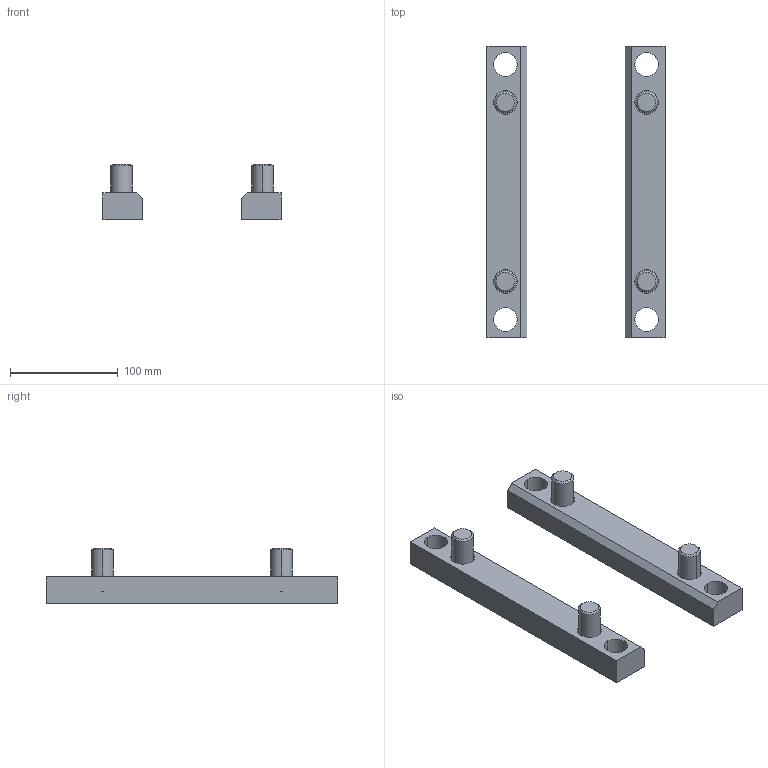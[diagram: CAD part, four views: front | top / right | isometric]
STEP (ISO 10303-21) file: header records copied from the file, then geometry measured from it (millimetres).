
FILE_DESCRIPTION (( 'STEP AP203' ), '1' );
FILE_NAME ('MJ5-BL.STEP', '2024-01-16T10:25:26', ( '' ), ( '' ), 'SwSTEP 2.0', 'SolidWorks 2022', '' );
FILE_SCHEMA (( 'CONFIG_CONTROL_DESIGN' ));
Length unit declared in the file: millimetre
Products named in the file (1): MJ5-BL
Bounding box: 165 x 270 x 51.6 mm (x, y, z)
Volume: 467697.3 mm3; surface area: 99119 mm2
Topology: 6 solids, 6 shells, 126 faces, 310 edges, 200 vertices
Faces by surface type: plane 54, cylinder 40, torus 16, cone 16
Entity records: 3777 total; most frequent: CARTESIAN_POINT 693, DIRECTION 660, ORIENTED_EDGE 604, EDGE_CURVE 302, AXIS2_PLACEMENT_3D 263, VERTEX_POINT 200, EDGE_LOOP 154, CIRCLE 136
